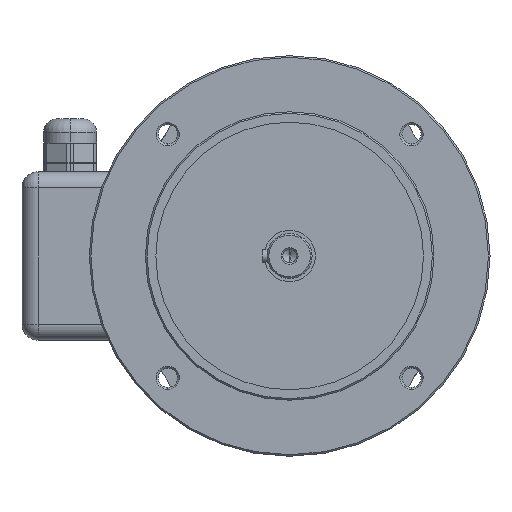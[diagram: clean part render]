
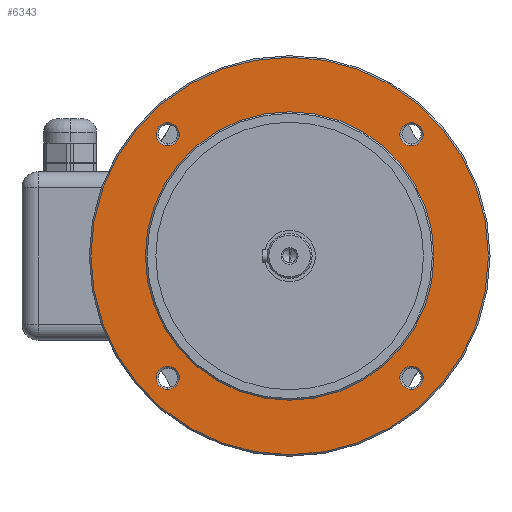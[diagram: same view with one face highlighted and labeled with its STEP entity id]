
A CAD part, left-side view. The second image highlights one B-rep face of the part: STEP entity #6343.
In plain terms, the highlighted planar face has unit normal (-1, 0, 0).
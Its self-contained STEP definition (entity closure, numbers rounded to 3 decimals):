
#198 = CIRCLE ( 'NONE', #3921, 124. ) ;
#261 = DIRECTION ( 'NONE',  ( -1., 0., 0. ) ) ;
#364 = EDGE_LOOP ( 'NONE', ( #7286, #12118 ) ) ;
#703 = CIRCLE ( 'NONE', #3731, 7.25 ) ;
#716 = CARTESIAN_POINT ( 'NONE',  ( 0., 0., 0. ) ) ;
#794 = EDGE_LOOP ( 'NONE', ( #5172, #6190 ) ) ;
#809 = DIRECTION ( 'NONE',  ( -1., 0., 0. ) ) ;
#1086 = EDGE_CURVE ( 'NONE', #8022, #3163, #7592, .T. ) ;
#1389 = CIRCLE ( 'NONE', #4412, 7.25 ) ;
#1442 = EDGE_CURVE ( 'NONE', #2098, #11618, #3183, .T. ) ;
#1499 = DIRECTION ( 'NONE',  ( -1., 0., 0. ) ) ;
#1563 = CARTESIAN_POINT ( 'NONE',  ( 0., 76.014, 76.014 ) ) ;
#1666 = FACE_BOUND ( 'NONE', #2726, .T. ) ;
#1719 = CARTESIAN_POINT ( 'NONE',  ( 0., 0., 0. ) ) ;
#1833 = CARTESIAN_POINT ( 'NONE',  ( 0., 0., 0. ) ) ;
#1851 = CIRCLE ( 'NONE', #9997, 7.25 ) ;
#2098 = VERTEX_POINT ( 'NONE', #10258 ) ;
#2266 = CARTESIAN_POINT ( 'NONE',  ( 0., -76.014, -83.264 ) ) ;
#2509 = EDGE_CURVE ( 'NONE', #11618, #2098, #12075, .T. ) ;
#2522 = CARTESIAN_POINT ( 'NONE',  ( 0., 76.014, -76.014 ) ) ;
#2574 = DIRECTION ( 'NONE',  ( 0., 0., 1. ) ) ;
#2610 = DIRECTION ( 'NONE',  ( 1., 0., 0. ) ) ;
#2648 = DIRECTION ( 'NONE',  ( -1., 0., 0. ) ) ;
#2702 = CARTESIAN_POINT ( 'NONE',  ( 0., 0., 0. ) ) ;
#2726 = EDGE_LOOP ( 'NONE', ( #10143, #3428 ) ) ;
#2859 = DIRECTION ( 'NONE',  ( 0., 0., -1. ) ) ;
#3012 = AXIS2_PLACEMENT_3D ( 'NONE', #3535, #2648, #8111 ) ;
#3048 = CARTESIAN_POINT ( 'NONE',  ( 0., 76.014, -68.764 ) ) ;
#3163 = VERTEX_POINT ( 'NONE', #3048 ) ;
#3183 = CIRCLE ( 'NONE', #4352, 90. ) ;
#3306 = EDGE_CURVE ( 'NONE', #11620, #3533, #10464, .T. ) ;
#3428 = ORIENTED_EDGE ( 'NONE', *, *, #5317, .F. ) ;
#3533 = VERTEX_POINT ( 'NONE', #10167 ) ;
#3535 = CARTESIAN_POINT ( 'NONE',  ( 0., -76.014, 76.014 ) ) ;
#3731 = AXIS2_PLACEMENT_3D ( 'NONE', #5814, #6976, #10336 ) ;
#3913 = CARTESIAN_POINT ( 'NONE',  ( 0., 90., 0. ) ) ;
#3921 = AXIS2_PLACEMENT_3D ( 'NONE', #1833, #809, #2859 ) ;
#4173 = AXIS2_PLACEMENT_3D ( 'NONE', #4931, #12677, #6017 ) ;
#4345 = EDGE_CURVE ( 'NONE', #5910, #6967, #703, .T. ) ;
#4352 = AXIS2_PLACEMENT_3D ( 'NONE', #716, #12755, #5157 ) ;
#4412 = AXIS2_PLACEMENT_3D ( 'NONE', #12717, #12573, #2574 ) ;
#4861 = FACE_BOUND ( 'NONE', #364, .T. ) ;
#4931 = CARTESIAN_POINT ( 'NONE',  ( 0., -76.014, 76.014 ) ) ;
#5007 = FACE_BOUND ( 'NONE', #794, .T. ) ;
#5057 = EDGE_CURVE ( 'NONE', #12794, #13721, #1851, .T. ) ;
#5157 = DIRECTION ( 'NONE',  ( 0., 0., 1. ) ) ;
#5168 = EDGE_LOOP ( 'NONE', ( #6191, #13532 ) ) ;
#5172 = ORIENTED_EDGE ( 'NONE', *, *, #12136, .F. ) ;
#5276 = ORIENTED_EDGE ( 'NONE', *, *, #11085, .T. ) ;
#5317 = EDGE_CURVE ( 'NONE', #6967, #5910, #1389, .T. ) ;
#5346 = ORIENTED_EDGE ( 'NONE', *, *, #5057, .F. ) ;
#5556 = DIRECTION ( 'NONE',  ( -1., 0., 0. ) ) ;
#5655 = CARTESIAN_POINT ( 'NONE',  ( 0., 76.014, -76.014 ) ) ;
#5791 = CARTESIAN_POINT ( 'NONE',  ( 0., 0., -124. ) ) ;
#5814 = CARTESIAN_POINT ( 'NONE',  ( 0., -76.014, -76.014 ) ) ;
#5910 = VERTEX_POINT ( 'NONE', #7287 ) ;
#6015 = DIRECTION ( 'NONE',  ( 0., 0., 1. ) ) ;
#6017 = DIRECTION ( 'NONE',  ( 0., 0., 1. ) ) ;
#6102 = FACE_BOUND ( 'NONE', #13698, .T. ) ;
#6129 = CARTESIAN_POINT ( 'NONE',  ( 0., 76.014, 83.264 ) ) ;
#6190 = ORIENTED_EDGE ( 'NONE', *, *, #1086, .F. ) ;
#6191 = ORIENTED_EDGE ( 'NONE', *, *, #8333, .F. ) ;
#6301 = CARTESIAN_POINT ( 'NONE',  ( 0., 76.014, -83.264 ) ) ;
#6343 = ADVANCED_FACE ( 'NONE', ( #12621, #1666, #9168, #6102, #5007, #4861 ), #9312, .F. ) ;
#6526 = AXIS2_PLACEMENT_3D ( 'NONE', #3913, #2610, #13779 ) ;
#6783 = EDGE_CURVE ( 'NONE', #8516, #13506, #8570, .T. ) ;
#6967 = VERTEX_POINT ( 'NONE', #2266 ) ;
#6976 = DIRECTION ( 'NONE',  ( -1., 0., 0. ) ) ;
#7224 = DIRECTION ( 'NONE',  ( -1., 0., 0. ) ) ;
#7286 = ORIENTED_EDGE ( 'NONE', *, *, #2509, .F. ) ;
#7287 = CARTESIAN_POINT ( 'NONE',  ( 0., -76.014, -68.764 ) ) ;
#7319 = CARTESIAN_POINT ( 'NONE',  ( 0., 76.014, 68.764 ) ) ;
#7442 = AXIS2_PLACEMENT_3D ( 'NONE', #5655, #261, #9149 ) ;
#7592 = CIRCLE ( 'NONE', #11341, 7.25 ) ;
#7744 = DIRECTION ( 'NONE',  ( 0., 0., 1. ) ) ;
#8022 = VERTEX_POINT ( 'NONE', #6301 ) ;
#8111 = DIRECTION ( 'NONE',  ( 0., 0., 1. ) ) ;
#8333 = EDGE_CURVE ( 'NONE', #3533, #11620, #11126, .T. ) ;
#8516 = VERTEX_POINT ( 'NONE', #8827 ) ;
#8570 = CIRCLE ( 'NONE', #8837, 124. ) ;
#8789 = CARTESIAN_POINT ( 'NONE',  ( 0., 0., 90. ) ) ;
#8827 = CARTESIAN_POINT ( 'NONE',  ( 0., 0., 124. ) ) ;
#8837 = AXIS2_PLACEMENT_3D ( 'NONE', #1719, #10949, #9438 ) ;
#8859 = EDGE_LOOP ( 'NONE', ( #5276, #13094 ) ) ;
#9019 = EDGE_CURVE ( 'NONE', #13721, #12794, #9508, .T. ) ;
#9149 = DIRECTION ( 'NONE',  ( 0., 0., 1. ) ) ;
#9168 = FACE_BOUND ( 'NONE', #5168, .T. ) ;
#9312 = PLANE ( 'NONE',  #6526 ) ;
#9438 = DIRECTION ( 'NONE',  ( 0., 0., -1. ) ) ;
#9508 = CIRCLE ( 'NONE', #11614, 7.25 ) ;
#9514 = AXIS2_PLACEMENT_3D ( 'NONE', #2702, #7224, #11602 ) ;
#9832 = CARTESIAN_POINT ( 'NONE',  ( 0., -76.014, 68.764 ) ) ;
#9997 = AXIS2_PLACEMENT_3D ( 'NONE', #10156, #5556, #7744 ) ;
#10143 = ORIENTED_EDGE ( 'NONE', *, *, #4345, .F. ) ;
#10156 = CARTESIAN_POINT ( 'NONE',  ( 0., 76.014, 76.014 ) ) ;
#10167 = CARTESIAN_POINT ( 'NONE',  ( 0., -76.014, 83.264 ) ) ;
#10258 = CARTESIAN_POINT ( 'NONE',  ( 0., 0., -90. ) ) ;
#10336 = DIRECTION ( 'NONE',  ( 0., 0., 1. ) ) ;
#10396 = DIRECTION ( 'NONE',  ( 0., 0., 1. ) ) ;
#10464 = CIRCLE ( 'NONE', #4173, 7.25 ) ;
#10949 = DIRECTION ( 'NONE',  ( -1., 0., 0. ) ) ;
#11085 = EDGE_CURVE ( 'NONE', #13506, #8516, #198, .T. ) ;
#11126 = CIRCLE ( 'NONE', #3012, 7.25 ) ;
#11341 = AXIS2_PLACEMENT_3D ( 'NONE', #2522, #1499, #10396 ) ;
#11602 = DIRECTION ( 'NONE',  ( 0., 0., 1. ) ) ;
#11614 = AXIS2_PLACEMENT_3D ( 'NONE', #1563, #12607, #6015 ) ;
#11618 = VERTEX_POINT ( 'NONE', #8789 ) ;
#11620 = VERTEX_POINT ( 'NONE', #9832 ) ;
#11746 = ORIENTED_EDGE ( 'NONE', *, *, #9019, .F. ) ;
#12075 = CIRCLE ( 'NONE', #9514, 90. ) ;
#12118 = ORIENTED_EDGE ( 'NONE', *, *, #1442, .F. ) ;
#12136 = EDGE_CURVE ( 'NONE', #3163, #8022, #13740, .T. ) ;
#12573 = DIRECTION ( 'NONE',  ( -1., 0., 0. ) ) ;
#12607 = DIRECTION ( 'NONE',  ( -1., 0., 0. ) ) ;
#12621 = FACE_OUTER_BOUND ( 'NONE', #8859, .T. ) ;
#12677 = DIRECTION ( 'NONE',  ( -1., 0., 0. ) ) ;
#12717 = CARTESIAN_POINT ( 'NONE',  ( 0., -76.014, -76.014 ) ) ;
#12755 = DIRECTION ( 'NONE',  ( -1., 0., 0. ) ) ;
#12794 = VERTEX_POINT ( 'NONE', #6129 ) ;
#13094 = ORIENTED_EDGE ( 'NONE', *, *, #6783, .T. ) ;
#13506 = VERTEX_POINT ( 'NONE', #5791 ) ;
#13532 = ORIENTED_EDGE ( 'NONE', *, *, #3306, .F. ) ;
#13698 = EDGE_LOOP ( 'NONE', ( #5346, #11746 ) ) ;
#13721 = VERTEX_POINT ( 'NONE', #7319 ) ;
#13740 = CIRCLE ( 'NONE', #7442, 7.25 ) ;
#13779 = DIRECTION ( 'NONE',  ( 0., 0., -1. ) ) ;
